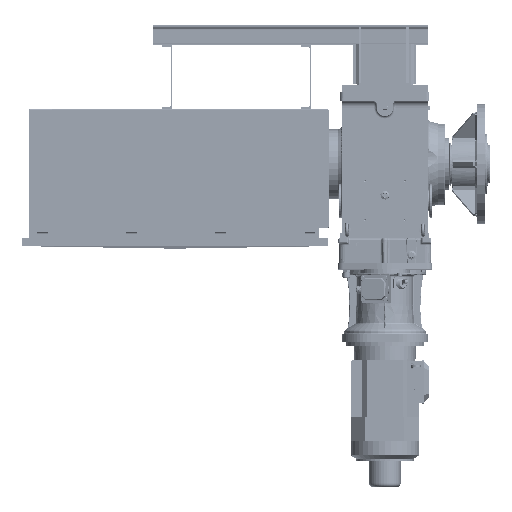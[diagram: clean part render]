
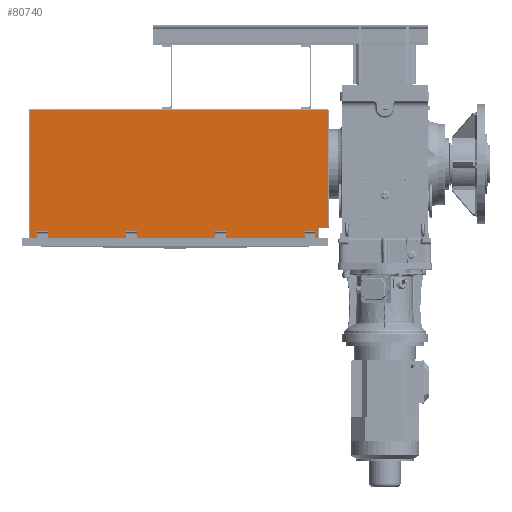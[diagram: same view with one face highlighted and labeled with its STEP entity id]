
A CAD part, top view. The second image highlights one B-rep face of the part: STEP entity #80740.
In plain terms, the highlighted planar face has unit normal (0, 0, 1).
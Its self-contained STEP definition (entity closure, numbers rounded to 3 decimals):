
#6699=FACE_OUTER_BOUND('',#11552,.T.);
#11552=EDGE_LOOP('',(#53352,#53353,#53354,#53355,#53356,#53357,#53358,#53359,
#53360,#53361,#53362,#53363,#53364,#53365,#53366,#53367,#53368,#53369,#53370,
#53371,#53372,#53373));
#16914=LINE('',#114684,#22630);
#16936=LINE('',#114739,#22652);
#16937=LINE('',#114745,#22653);
#16956=LINE('',#114783,#22672);
#16957=LINE('',#114788,#22673);
#17016=LINE('',#114961,#22732);
#17036=LINE('',#115013,#22752);
#17037=LINE('',#115016,#22753);
#17038=LINE('',#115019,#22754);
#17088=LINE('',#115157,#22804);
#17108=LINE('',#115209,#22824);
#17109=LINE('',#115212,#22825);
#17110=LINE('',#115215,#22826);
#17126=LINE('',#115257,#22842);
#17145=LINE('',#115307,#22861);
#17146=LINE('',#115310,#22862);
#17147=LINE('',#115313,#22863);
#17701=LINE('',#118005,#23417);
#17730=LINE('',#118072,#23446);
#17731=LINE('',#118074,#23447);
#17739=LINE('',#118089,#23455);
#17740=LINE('',#118090,#23456);
#22630=VECTOR('',#93095,32.647);
#22652=VECTOR('',#93153,40.);
#22653=VECTOR('',#93160,32.647);
#22672=VECTOR('',#93183,300.);
#22673=VECTOR('',#93190,9.984);
#22732=VECTOR('',#93353,32.647);
#22752=VECTOR('',#93409,40.);
#22753=VECTOR('',#93414,32.647);
#22754=VECTOR('',#93417,300.);
#22804=VECTOR('',#93553,32.647);
#22824=VECTOR('',#93609,40.);
#22825=VECTOR('',#93614,32.647);
#22826=VECTOR('',#93617,300.);
#22842=VECTOR('',#93655,32.647);
#22861=VECTOR('',#93708,40.);
#22862=VECTOR('',#93713,32.647);
#22863=VECTOR('',#93716,28.016);
#23417=VECTOR('',#95394,448.016);
#23446=VECTOR('',#95461,46.032);
#23447=VECTOR('',#95464,40.);
#23455=VECTOR('',#95480,1138.);
#23456=VECTOR('',#95481,494.048);
#31823=VERTEX_POINT('',#114668);
#31830=VERTEX_POINT('',#114682);
#31845=VERTEX_POINT('',#114737);
#31846=VERTEX_POINT('',#114742);
#31864=VERTEX_POINT('',#114782);
#31865=VERTEX_POINT('',#114786);
#31921=VERTEX_POINT('',#114947);
#31927=VERTEX_POINT('',#114959);
#31941=VERTEX_POINT('',#115011);
#31942=VERTEX_POINT('',#115018);
#31981=VERTEX_POINT('',#115143);
#31987=VERTEX_POINT('',#115155);
#32001=VERTEX_POINT('',#115207);
#32002=VERTEX_POINT('',#115214);
#32011=VERTEX_POINT('',#115243);
#32017=VERTEX_POINT('',#115255);
#32031=VERTEX_POINT('',#115305);
#32032=VERTEX_POINT('',#115312);
#32631=VERTEX_POINT('',#118002);
#32632=VERTEX_POINT('',#118004);
#32651=VERTEX_POINT('',#118070);
#32654=VERTEX_POINT('',#118088);
#39477=EDGE_CURVE('',#31823,#31830,#16914,.T.);
#39505=EDGE_CURVE('',#31830,#31845,#16936,.T.);
#39507=EDGE_CURVE('',#31845,#31846,#16937,.T.);
#39526=EDGE_CURVE('',#31864,#31823,#16956,.T.);
#39529=EDGE_CURVE('',#31846,#31865,#16957,.T.);
#39616=EDGE_CURVE('',#31921,#31927,#17016,.T.);
#39642=EDGE_CURVE('',#31927,#31941,#17036,.T.);
#39643=EDGE_CURVE('',#31941,#31864,#17037,.T.);
#39644=EDGE_CURVE('',#31942,#31921,#17038,.T.);
#39714=EDGE_CURVE('',#31981,#31987,#17088,.T.);
#39740=EDGE_CURVE('',#31987,#32001,#17108,.T.);
#39741=EDGE_CURVE('',#32001,#31942,#17109,.T.);
#39742=EDGE_CURVE('',#32002,#31981,#17110,.T.);
#39764=EDGE_CURVE('',#32011,#32017,#17126,.T.);
#39789=EDGE_CURVE('',#32017,#32031,#17145,.T.);
#39790=EDGE_CURVE('',#32031,#32002,#17146,.T.);
#39791=EDGE_CURVE('',#32032,#32011,#17147,.T.);
#40659=EDGE_CURVE('',#32631,#32632,#17701,.T.);
#40695=EDGE_CURVE('',#31865,#32651,#17730,.T.);
#40696=EDGE_CURVE('',#32651,#32632,#17731,.T.);
#40704=EDGE_CURVE('',#32654,#32631,#17739,.T.);
#40705=EDGE_CURVE('',#32032,#32654,#17740,.T.);
#53352=ORIENTED_EDGE('',*,*,#39507,.T.);
#53353=ORIENTED_EDGE('',*,*,#39529,.T.);
#53354=ORIENTED_EDGE('',*,*,#40695,.T.);
#53355=ORIENTED_EDGE('',*,*,#40696,.T.);
#53356=ORIENTED_EDGE('',*,*,#40659,.F.);
#53357=ORIENTED_EDGE('',*,*,#40704,.F.);
#53358=ORIENTED_EDGE('',*,*,#40705,.F.);
#53359=ORIENTED_EDGE('',*,*,#39791,.T.);
#53360=ORIENTED_EDGE('',*,*,#39764,.T.);
#53361=ORIENTED_EDGE('',*,*,#39789,.T.);
#53362=ORIENTED_EDGE('',*,*,#39790,.T.);
#53363=ORIENTED_EDGE('',*,*,#39742,.T.);
#53364=ORIENTED_EDGE('',*,*,#39714,.T.);
#53365=ORIENTED_EDGE('',*,*,#39740,.T.);
#53366=ORIENTED_EDGE('',*,*,#39741,.T.);
#53367=ORIENTED_EDGE('',*,*,#39644,.T.);
#53368=ORIENTED_EDGE('',*,*,#39616,.T.);
#53369=ORIENTED_EDGE('',*,*,#39642,.T.);
#53370=ORIENTED_EDGE('',*,*,#39643,.T.);
#53371=ORIENTED_EDGE('',*,*,#39526,.T.);
#53372=ORIENTED_EDGE('',*,*,#39477,.T.);
#53373=ORIENTED_EDGE('',*,*,#39505,.T.);
#73865=PLANE('',#85812);
#80740=ADVANCED_FACE('',(#6699),#73865,.T.);
#85812=AXIS2_PLACEMENT_3D('',#118087,#95478,#95479);
#93095=DIRECTION('',(0.,1.,0.));
#93153=DIRECTION('',(1.,0.,0.));
#93160=DIRECTION('',(0.,-1.,0.));
#93183=DIRECTION('',(1.,0.,0.));
#93190=DIRECTION('',(1.,0.,0.));
#93353=DIRECTION('',(0.,1.,0.));
#93409=DIRECTION('',(1.,0.,0.));
#93414=DIRECTION('',(0.,-1.,0.));
#93417=DIRECTION('',(1.,0.,0.));
#93553=DIRECTION('',(0.,1.,0.));
#93609=DIRECTION('',(1.,0.,0.));
#93614=DIRECTION('',(0.,-1.,0.));
#93617=DIRECTION('',(1.,0.,0.));
#93655=DIRECTION('',(0.,1.,0.));
#93708=DIRECTION('',(1.,0.,0.));
#93713=DIRECTION('',(0.,-1.,0.));
#93716=DIRECTION('',(1.,0.,0.));
#95394=DIRECTION('',(0.,-1.,0.));
#95461=DIRECTION('',(0.,1.,0.));
#95464=DIRECTION('',(1.,0.,0.));
#95478=DIRECTION('center_axis',(0.,0.,
1.));
#95479=DIRECTION('ref_axis',(0.,-1.,0.));
#95480=DIRECTION('',(1.,0.,0.));
#95481=DIRECTION('',(0.,1.,0.));
#114668=CARTESIAN_POINT('',(-434.673,-498.787,676.738));
#114682=CARTESIAN_POINT('',(-434.673,-466.14,676.738));
#114684=CARTESIAN_POINT('',(-434.673,-365.385,676.738));
#114737=CARTESIAN_POINT('',(-394.673,-466.14,676.738));
#114739=CARTESIAN_POINT('',(-664.181,-466.14,676.738));
#114742=CARTESIAN_POINT('',(-394.673,-498.787,676.738));
#114745=CARTESIAN_POINT('',(-394.673,-365.385,676.738));
#114782=CARTESIAN_POINT('',(-734.673,-498.787,676.738));
#114783=CARTESIAN_POINT('',(-1198.19,-498.787,676.738));
#114786=CARTESIAN_POINT('',(-384.69,-498.787,676.738));
#114788=CARTESIAN_POINT('',(-1198.19,-498.787,676.738));
#114947=CARTESIAN_POINT('',(-774.673,-498.787,676.738));
#114959=CARTESIAN_POINT('',(-774.673,-466.14,676.738));
#114961=CARTESIAN_POINT('',(-774.673,-365.385,676.738));
#115011=CARTESIAN_POINT('',(-734.673,-466.14,676.738));
#115013=CARTESIAN_POINT('',(-834.181,-466.14,676.738));
#115016=CARTESIAN_POINT('',(-734.673,-365.385,676.738));
#115018=CARTESIAN_POINT('',(-1074.673,-498.787,676.738));
#115019=CARTESIAN_POINT('',(-1198.19,-498.787,676.738));
#115143=CARTESIAN_POINT('',(-1114.673,-498.787,676.738));
#115155=CARTESIAN_POINT('',(-1114.673,-466.14,676.738));
#115157=CARTESIAN_POINT('',(-1114.673,-365.385,676.738));
#115207=CARTESIAN_POINT('',(-1074.673,-466.14,676.738));
#115209=CARTESIAN_POINT('',(-1004.181,-466.14,676.738));
#115212=CARTESIAN_POINT('',(-1074.673,-365.385,676.738));
#115214=CARTESIAN_POINT('',(-1414.673,-498.787,676.738));
#115215=CARTESIAN_POINT('',(-1198.19,-498.787,676.738));
#115243=CARTESIAN_POINT('',(-1454.673,-498.787,676.738));
#115255=CARTESIAN_POINT('',(-1454.673,-466.14,676.738));
#115257=CARTESIAN_POINT('',(-1454.673,-365.385,676.738));
#115305=CARTESIAN_POINT('',(-1414.673,-466.14,676.738));
#115307=CARTESIAN_POINT('',(-1174.181,-466.14,676.738));
#115310=CARTESIAN_POINT('',(-1414.673,-365.385,676.738));
#115312=CARTESIAN_POINT('',(-1482.69,-498.787,676.738));
#115313=CARTESIAN_POINT('',(-1198.19,-498.787,676.738));
#118002=CARTESIAN_POINT('',(-344.69,-4.739,676.738));
#118004=CARTESIAN_POINT('',(-344.69,-452.755,676.738));
#118005=CARTESIAN_POINT('',(-344.69,-2.755,676.738));
#118070=CARTESIAN_POINT('',(-384.69,-452.755,676.738));
#118072=CARTESIAN_POINT('',(-384.69,-377.755,676.738));
#118074=CARTESIAN_POINT('',(-649.19,-452.755,676.738));
#118087=CARTESIAN_POINT('Origin',(-913.69,-252.755,676.738));
#118088=CARTESIAN_POINT('',(-1482.69,-4.739,676.738));
#118089=CARTESIAN_POINT('',(-344.69,-4.739,676.738));
#118090=CARTESIAN_POINT('',(-1482.69,-502.755,676.738));
